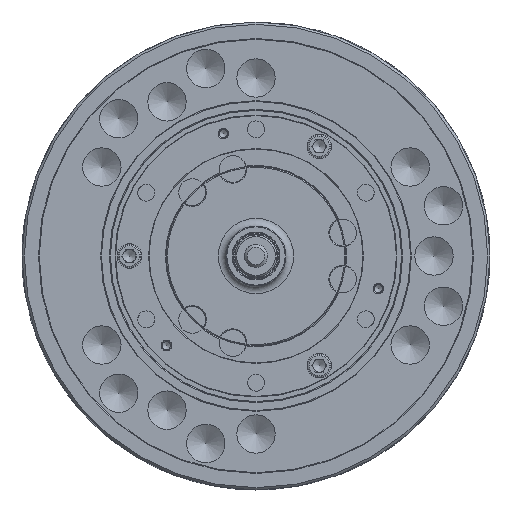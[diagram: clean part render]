
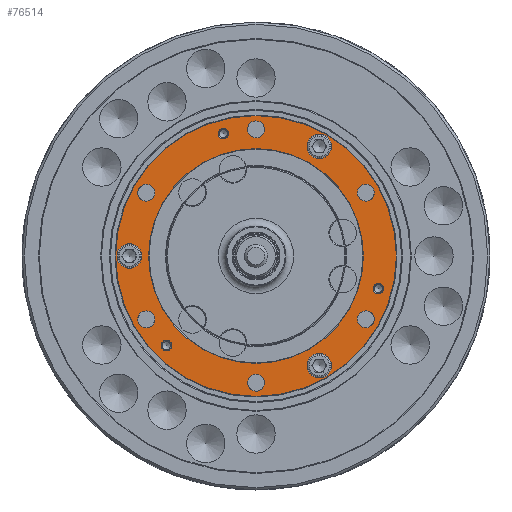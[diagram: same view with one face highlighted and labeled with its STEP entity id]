
A CAD part, left-side view. The second image highlights one B-rep face of the part: STEP entity #76514.
In plain terms, the highlighted planar face has unit normal (-1, 0, 0).
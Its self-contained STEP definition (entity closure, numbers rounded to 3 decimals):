
#174 = EDGE_LOOP ( 'NONE', ( #16070 ) ) ;
#234 = DIRECTION ( 'NONE',  ( 1., 0., 0. ) ) ;
#545 = ORIENTED_EDGE ( 'NONE', *, *, #56416, .F. ) ;
#689 = DIRECTION ( 'NONE',  ( 0., 0., 1. ) ) ;
#871 = CARTESIAN_POINT ( 'NONE',  ( -119., 0., 140. ) ) ;
#4626 = FACE_BOUND ( 'NONE', #62935, .T. ) ;
#4972 = DIRECTION ( 'NONE',  ( 0., 0., 1. ) ) ;
#5323 = AXIS2_PLACEMENT_3D ( 'NONE', #70545, #93960, #7504 ) ;
#7504 = DIRECTION ( 'NONE',  ( 0., 0., 1. ) ) ;
#8082 = CARTESIAN_POINT ( 'NONE',  ( -119., 42.705, 166.178 ) ) ;
#10049 = CIRCLE ( 'NONE', #48438, 183. ) ;
#10192 = EDGE_CURVE ( 'NONE', #26275, #26275, #101277, .T. ) ;
#10223 = VERTEX_POINT ( 'NONE', #96260 ) ;
#10809 = CIRCLE ( 'NONE', #5323, 6.8 ) ;
#11005 = DIRECTION ( 'NONE',  ( -1., 0., 0. ) ) ;
#13368 = CIRCLE ( 'NONE', #58765, 16. ) ;
#13964 = EDGE_CURVE ( 'NONE', #73135, #73135, #48791, .T. ) ;
#14383 = ORIENTED_EDGE ( 'NONE', *, *, #23796, .T. ) ;
#14674 = EDGE_LOOP ( 'NONE', ( #44995 ) ) ;
#15079 = VERTEX_POINT ( 'NONE', #48431 ) ;
#16070 = ORIENTED_EDGE ( 'NONE', *, *, #10192, .F. ) ;
#17292 = EDGE_CURVE ( 'NONE', #100180, #100180, #72025, .T. ) ;
#17754 = ORIENTED_EDGE ( 'NONE', *, *, #59801, .T. ) ;
#17813 = CARTESIAN_POINT ( 'NONE',  ( -119., 0., 165.1 ) ) ;
#18437 = CIRCLE ( 'NONE', #23476, 6.8 ) ;
#18658 = FACE_BOUND ( 'NONE', #97315, .T. ) ;
#18734 = VERTEX_POINT ( 'NONE', #27003 ) ;
#19062 = CARTESIAN_POINT ( 'NONE',  ( -119., 0., 183. ) ) ;
#20110 = DIRECTION ( 'NONE',  ( 1., 0., 0. ) ) ;
#20298 = DIRECTION ( 'NONE',  ( -1., 0., 0. ) ) ;
#20459 = DIRECTION ( 'NONE',  ( -1., 0., 0. ) ) ;
#23476 = AXIS2_PLACEMENT_3D ( 'NONE', #42959, #34659, #66688 ) ;
#23796 = EDGE_CURVE ( 'NONE', #76769, #76769, #86996, .T. ) ;
#24097 = ORIENTED_EDGE ( 'NONE', *, *, #93070, .F. ) ;
#25919 = CIRCLE ( 'NONE', #59197, 6.8 ) ;
#26275 = VERTEX_POINT ( 'NONE', #871 ) ;
#26537 = EDGE_CURVE ( 'NONE', #10223, #10223, #25919, .T. ) ;
#27003 = CARTESIAN_POINT ( 'NONE',  ( -119., 0., 176.1 ) ) ;
#27291 = AXIS2_PLACEMENT_3D ( 'NONE', #44306, #20459, #4972 ) ;
#27350 = VERTEX_POINT ( 'NONE', #8082 ) ;
#28058 = DIRECTION ( 'NONE',  ( 0., 0., 1. ) ) ;
#31947 = FACE_BOUND ( 'NONE', #14674, .T. ) ;
#32362 = PLANE ( 'NONE',  #50437 ) ;
#32850 = ORIENTED_EDGE ( 'NONE', *, *, #58157, .T. ) ;
#34283 = DIRECTION ( 'NONE',  ( 0., 0., 1. ) ) ;
#34659 = DIRECTION ( 'NONE',  ( -1., 0., 0. ) ) ;
#34815 = AXIS2_PLACEMENT_3D ( 'NONE', #81493, #58100, #34283 ) ;
#34941 = CARTESIAN_POINT ( 'NONE',  ( -119., 165., 16. ) ) ;
#35507 = DIRECTION ( 'NONE',  ( 0., 0., 1. ) ) ;
#36546 = FACE_BOUND ( 'NONE', #94826, .T. ) ;
#36892 = CARTESIAN_POINT ( 'NONE',  ( -119., -82.5, -142.894 ) ) ;
#37713 = EDGE_LOOP ( 'NONE', ( #93743 ) ) ;
#38090 = ORIENTED_EDGE ( 'NONE', *, *, #26537, .F. ) ;
#38293 = FACE_BOUND ( 'NONE', #174, .T. ) ;
#38346 = EDGE_CURVE ( 'NONE', #44699, #44699, #13368, .T. ) ;
#38377 = EDGE_CURVE ( 'NONE', #15079, #15079, #102160, .T. ) ;
#39098 = DIRECTION ( 'NONE',  ( 0., 0., 1. ) ) ;
#39433 = EDGE_LOOP ( 'NONE', ( #64877 ) ) ;
#39804 = CARTESIAN_POINT ( 'NONE',  ( -119., -159.378, -35.905 ) ) ;
#39805 = AXIS2_PLACEMENT_3D ( 'NONE', #92010, #44879, #52785 ) ;
#42392 = AXIS2_PLACEMENT_3D ( 'NONE', #17813, #71584, #79869 ) ;
#42849 = FACE_BOUND ( 'NONE', #39433, .T. ) ;
#42959 = CARTESIAN_POINT ( 'NONE',  ( -119., 42.705, 159.378 ) ) ;
#44306 = CARTESIAN_POINT ( 'NONE',  ( -119., 165., 0. ) ) ;
#44646 = DIRECTION ( 'NONE',  ( 0., 0., 1. ) ) ;
#44699 = VERTEX_POINT ( 'NONE', #57395 ) ;
#44879 = DIRECTION ( 'NONE',  ( -1., 0., 0. ) ) ;
#44995 = ORIENTED_EDGE ( 'NONE', *, *, #87486, .F. ) ;
#47036 = CARTESIAN_POINT ( 'NONE',  ( -119., 142.981, -82.55 ) ) ;
#47462 = EDGE_CURVE ( 'NONE', #48445, #48445, #63801, .T. ) ;
#48431 = CARTESIAN_POINT ( 'NONE',  ( -119., -142.981, -71.55 ) ) ;
#48438 = AXIS2_PLACEMENT_3D ( 'NONE', #53226, #60145, #44646 ) ;
#48445 = VERTEX_POINT ( 'NONE', #34941 ) ;
#48726 = ORIENTED_EDGE ( 'NONE', *, *, #38346, .F. ) ;
#48791 = CIRCLE ( 'NONE', #34815, 11. ) ;
#49113 = CARTESIAN_POINT ( 'NONE',  ( -119., -142.981, 93.55 ) ) ;
#50271 = FACE_BOUND ( 'NONE', #74347, .T. ) ;
#50437 = AXIS2_PLACEMENT_3D ( 'NONE', #56861, #79913, #689 ) ;
#52785 = DIRECTION ( 'NONE',  ( 0., 0., 1. ) ) ;
#53073 = FACE_BOUND ( 'NONE', #78279, .T. ) ;
#53226 = CARTESIAN_POINT ( 'NONE',  ( -119., 0., 0. ) ) ;
#53483 = CIRCLE ( 'NONE', #42392, 11. ) ;
#54704 = DIRECTION ( 'NONE',  ( 0., 0., 1. ) ) ;
#55677 = VERTEX_POINT ( 'NONE', #39804 ) ;
#56416 = EDGE_CURVE ( 'NONE', #18734, #18734, #53483, .T. ) ;
#56861 = CARTESIAN_POINT ( 'NONE',  ( -119., 0., 0. ) ) ;
#57395 = CARTESIAN_POINT ( 'NONE',  ( -119., -96.356, 134.894 ) ) ;
#58100 = DIRECTION ( 'NONE',  ( -1., 0., 0. ) ) ;
#58157 = EDGE_CURVE ( 'NONE', #71737, #71737, #10049, .T. ) ;
#58765 = AXIS2_PLACEMENT_3D ( 'NONE', #74081, #11005, #97486 ) ;
#59197 = AXIS2_PLACEMENT_3D ( 'NONE', #59640, #20298, #68208 ) ;
#59414 = VERTEX_POINT ( 'NONE', #74208 ) ;
#59640 = CARTESIAN_POINT ( 'NONE',  ( -119., 116.673, -116.673 ) ) ;
#59801 = EDGE_CURVE ( 'NONE', #59414, #59414, #101260, .T. ) ;
#60145 = DIRECTION ( 'NONE',  ( -1., 0., 0. ) ) ;
#61199 = FACE_BOUND ( 'NONE', #86532, .T. ) ;
#61721 = FACE_OUTER_BOUND ( 'NONE', #83701, .T. ) ;
#62935 = EDGE_LOOP ( 'NONE', ( #545 ) ) ;
#63726 = AXIS2_PLACEMENT_3D ( 'NONE', #85998, #234, #54704 ) ;
#63801 = CIRCLE ( 'NONE', #27291, 16. ) ;
#64621 = CARTESIAN_POINT ( 'NONE',  ( -119., -68.644, -150.894 ) ) ;
#64877 = ORIENTED_EDGE ( 'NONE', *, *, #87930, .T. ) ;
#65965 = AXIS2_PLACEMENT_3D ( 'NONE', #82671, #90915, #35507 ) ;
#66688 = DIRECTION ( 'NONE',  ( 0., 0., 1. ) ) ;
#66806 = VERTEX_POINT ( 'NONE', #71445 ) ;
#67339 = CARTESIAN_POINT ( 'NONE',  ( -119., 0., -165.1 ) ) ;
#68208 = DIRECTION ( 'NONE',  ( 0., 0., 1. ) ) ;
#68244 = EDGE_LOOP ( 'NONE', ( #96910 ) ) ;
#68544 = AXIS2_PLACEMENT_3D ( 'NONE', #36892, #84072, #68561 ) ;
#68561 = DIRECTION ( 'NONE',  ( 0., 0.866, -0.5 ) ) ;
#70545 = CARTESIAN_POINT ( 'NONE',  ( -119., -159.378, -42.705 ) ) ;
#71445 = CARTESIAN_POINT ( 'NONE',  ( -119., 142.981, -71.55 ) ) ;
#71584 = DIRECTION ( 'NONE',  ( -1., 0., 0. ) ) ;
#71737 = VERTEX_POINT ( 'NONE', #19062 ) ;
#72025 = CIRCLE ( 'NONE', #68544, 16. ) ;
#72167 = FACE_BOUND ( 'NONE', #83161, .T. ) ;
#73135 = VERTEX_POINT ( 'NONE', #93895 ) ;
#73255 = EDGE_LOOP ( 'NONE', ( #74130 ) ) ;
#73845 = CIRCLE ( 'NONE', #82183, 11. ) ;
#74081 = CARTESIAN_POINT ( 'NONE',  ( -119., -82.5, 142.894 ) ) ;
#74130 = ORIENTED_EDGE ( 'NONE', *, *, #13964, .F. ) ;
#74208 = CARTESIAN_POINT ( 'NONE',  ( -119., 0., -154.1 ) ) ;
#74347 = EDGE_LOOP ( 'NONE', ( #17754 ) ) ;
#76514 = ADVANCED_FACE ( 'NONE', ( #83735, #4626, #42849, #50271, #61199, #93092, #72167, #84211, #18658, #31947, #36546, #53073, #61721, #38293 ), #32362, .T. ) ;
#76769 = VERTEX_POINT ( 'NONE', #49113 ) ;
#78279 = EDGE_LOOP ( 'NONE', ( #38090 ) ) ;
#79869 = DIRECTION ( 'NONE',  ( 0., 0., 1. ) ) ;
#79913 = DIRECTION ( 'NONE',  ( -1., 0., 0. ) ) ;
#81493 = CARTESIAN_POINT ( 'NONE',  ( -119., 142.981, 82.55 ) ) ;
#82183 = AXIS2_PLACEMENT_3D ( 'NONE', #47036, #95199, #39098 ) ;
#82671 = CARTESIAN_POINT ( 'NONE',  ( -119., -142.981, -82.55 ) ) ;
#83161 = EDGE_LOOP ( 'NONE', ( #48726 ) ) ;
#83701 = EDGE_LOOP ( 'NONE', ( #32850 ) ) ;
#83735 = FACE_BOUND ( 'NONE', #73255, .T. ) ;
#84072 = DIRECTION ( 'NONE',  ( -1., 0., 0. ) ) ;
#84211 = FACE_BOUND ( 'NONE', #68244, .T. ) ;
#85998 = CARTESIAN_POINT ( 'NONE',  ( -119., -142.981, 82.55 ) ) ;
#86532 = EDGE_LOOP ( 'NONE', ( #14383 ) ) ;
#86996 = CIRCLE ( 'NONE', #63726, 11. ) ;
#87486 = EDGE_CURVE ( 'NONE', #27350, #27350, #18437, .T. ) ;
#87930 = EDGE_CURVE ( 'NONE', #66806, #66806, #73845, .T. ) ;
#90915 = DIRECTION ( 'NONE',  ( 1., 0., 0. ) ) ;
#92010 = CARTESIAN_POINT ( 'NONE',  ( -119., 0., 0. ) ) ;
#93070 = EDGE_CURVE ( 'NONE', #55677, #55677, #10809, .T. ) ;
#93092 = FACE_BOUND ( 'NONE', #37713, .T. ) ;
#93743 = ORIENTED_EDGE ( 'NONE', *, *, #38377, .T. ) ;
#93895 = CARTESIAN_POINT ( 'NONE',  ( -119., 142.981, 93.55 ) ) ;
#93960 = DIRECTION ( 'NONE',  ( -1., 0., 0. ) ) ;
#93961 = ORIENTED_EDGE ( 'NONE', *, *, #47462, .F. ) ;
#94826 = EDGE_LOOP ( 'NONE', ( #93961 ) ) ;
#95199 = DIRECTION ( 'NONE',  ( 1., 0., 0. ) ) ;
#96260 = CARTESIAN_POINT ( 'NONE',  ( -119., 116.673, -109.873 ) ) ;
#96910 = ORIENTED_EDGE ( 'NONE', *, *, #17292, .F. ) ;
#97315 = EDGE_LOOP ( 'NONE', ( #24097 ) ) ;
#97486 = DIRECTION ( 'NONE',  ( 0., -0.866, -0.5 ) ) ;
#99412 = AXIS2_PLACEMENT_3D ( 'NONE', #67339, #20110, #28058 ) ;
#100180 = VERTEX_POINT ( 'NONE', #64621 ) ;
#101260 = CIRCLE ( 'NONE', #99412, 11. ) ;
#101277 = CIRCLE ( 'NONE', #39805, 140. ) ;
#102160 = CIRCLE ( 'NONE', #65965, 11. ) ;
